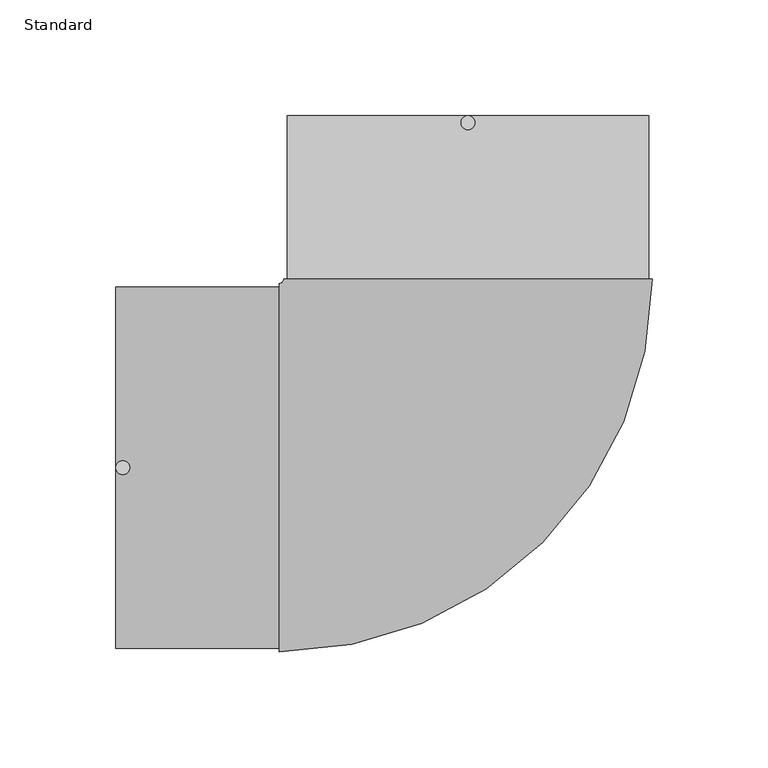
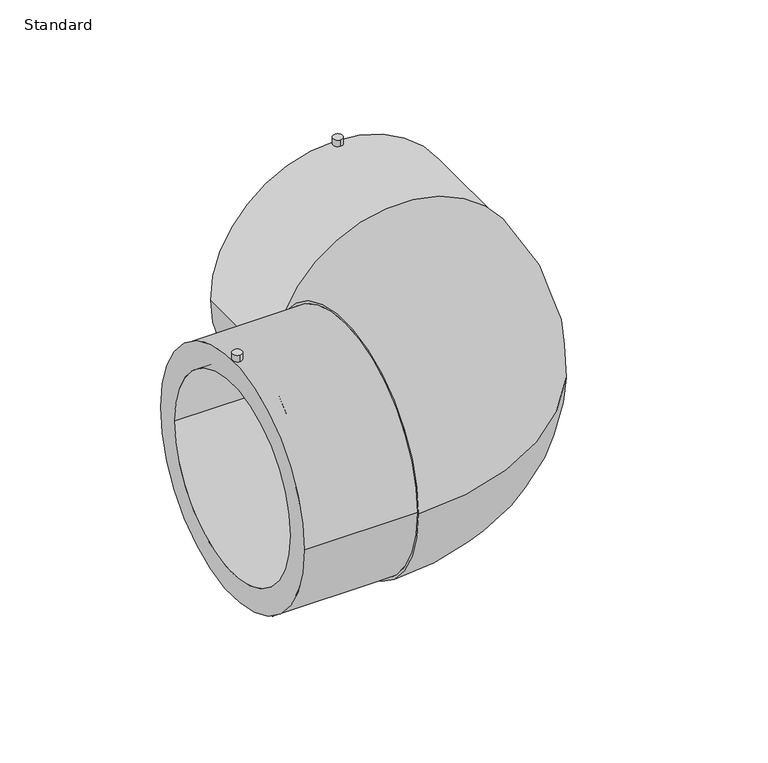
"""IFC4 building model written with IfcOpenShell, lengths in millimetres: pipe fitting geometry, EGB_VASEN_ PPR_Codo electrosoldable 90 WXRD200_Codo electrosoldable 45 WXRD220 : Standard."""

from ifc_helpers import new_model, si_unit, point, frame, frame_2d, origin, place, context, project, spatial, polyline, circle_curve, ellipse_curve, trimmed, segment, composite_curve, outline, extrude, source, transform, mapped, element, save
from ifc_brep_helpers import plane_surface, cylinder_surface, revolved_surface, advanced_brep


def standard_b9aabcd8(model_context):
    return source(origin(), model_context, "Body", "SolidModel", [
        advanced_brep(
        [(-152.0, -78.0, 0.0), (-152.0, 78.0, 0.0), (-152.0, -62.5, 0.0), (-152.0, 62.5, 0.0), (-81.5, -78.0, 0.0), (-81.5, 78.0, 0.0), (-81.5, -62.5, 0.0), (-81.5, 62.5, 0.0), (-81.5, -79.5, 0.0), (-81.5, 79.5, 0.0), (79.5, 81.5, 0.0), (-79.5, 81.5, 0.0), (78.0, 81.5, 0.0), (-78.0, 81.5, 0.0), (62.5, 81.5, 0.0), (-62.5, 81.5, 0.0), (78.0, 152.0, 0.0), (-78.0, 152.0, 0.0), (62.5, 152.0, 0.0), (-62.5, 152.0, 0.0)],
        [
            (0, 1, circle_curve(frame((-152.0, 0.0, 0.0), z_axis=(-1.0, 0.0, 0.0), x_axis=(0.0, 1.0, 0.0)), 78.0)),
            (1, 0, circle_curve(frame((-152.0, 0.0, 0.0), z_axis=(-1.0, 0.0, 0.0), x_axis=(0.0, 1.0, 0.0)), 78.0)),
            (2, 3, circle_curve(frame((-152.0, 0.0, 0.0), z_axis=(1.0, 0.0, 0.0), x_axis=(0.0, 1.0, 0.0)), 62.5)),
            (3, 2, circle_curve(frame((-152.0, 0.0, 0.0), z_axis=(1.0, 0.0, 0.0), x_axis=(0.0, 1.0, 0.0)), 62.5)),
            (0, 4),
            (4, 5, circle_curve(frame((-81.5, 0.0, 0.0), z_axis=(-1.0, 0.0, 0.0), x_axis=(0.0, 1.0, 0.0)), 78.0)),
            (5, 1),
            (5, 4, circle_curve(frame((-81.5, 0.0, 0.0), z_axis=(-1.0, 0.0, 0.0), x_axis=(0.0, 1.0, 0.0)), 78.0)),
            (2, 6),
            (6, 7, circle_curve(frame((-81.5, 0.0, 0.0), z_axis=(1.0, 0.0, 0.0), x_axis=(0.0, 1.0, 0.0)), 62.5)),
            (7, 3),
            (7, 6, circle_curve(frame((-81.5, 0.0, 0.0), z_axis=(1.0, 0.0, 0.0), x_axis=(0.0, 1.0, 0.0)), 62.5)),
            (8, 9, circle_curve(frame((-81.5, 0.0, 0.0), z_axis=(-1.0, 0.0, 0.0), x_axis=(0.0, 1.0, 0.0)), 79.5)),
            (9, 8, circle_curve(frame((-81.5, 0.0, 0.0), z_axis=(-1.0, 0.0, 0.0), x_axis=(0.0, 1.0, 0.0)), 79.5)),
            (10, 11, circle_curve(frame((0.0, 81.5, 0.0), z_axis=(0.0, 1.0, 0.0), x_axis=(-1.0, 0.0, 0.0)), 79.5)),
            (11, 10, circle_curve(frame((0.0, 81.5, 0.0), z_axis=(0.0, 1.0, 0.0), x_axis=(-1.0, 0.0, 0.0)), 79.5)),
            (12, 13, circle_curve(frame((0.0, 81.5, 0.0), z_axis=(0.0, -1.0, 0.0), x_axis=(-1.0, 0.0, 0.0)), 78.0)),
            (13, 12, circle_curve(frame((0.0, 81.5, 0.0), z_axis=(0.0, -1.0, 0.0), x_axis=(-1.0, 0.0, 0.0)), 78.0)),
            (14, 15, circle_curve(frame((0.0, 81.5, 0.0), z_axis=(0.0, 1.0, 0.0), x_axis=(-1.0, 0.0, 0.0)), 62.5)),
            (15, 14, circle_curve(frame((0.0, 81.5, 0.0), z_axis=(0.0, 1.0, 0.0), x_axis=(-1.0, 0.0, 0.0)), 62.5)),
            (8, 10, circle_curve(frame((-81.5, 81.5, 0.0), z_axis=(0.0, 0.0, 1.0), x_axis=(0.0, -1.0, 0.0)), 161.0)),
            (11, 9, circle_curve(frame((-81.5, 81.5, 0.0), z_axis=(0.0, 0.0, -1.0), x_axis=(0.0, -1.0, 0.0)), 2.0)),
            (16, 17, circle_curve(frame((0.0, 152.0, 0.0), z_axis=(0.0, 1.0, 0.0), x_axis=(-1.0, 0.0, 0.0)), 78.0)),
            (17, 16, circle_curve(frame((0.0, 152.0, 0.0), z_axis=(0.0, 1.0, 0.0), x_axis=(-1.0, 0.0, 0.0)), 78.0)),
            (18, 19, circle_curve(frame((0.0, 152.0, 0.0), z_axis=(0.0, -1.0, 0.0), x_axis=(-1.0, 0.0, 0.0)), 62.5)),
            (19, 18, circle_curve(frame((0.0, 152.0, 0.0), z_axis=(0.0, -1.0, 0.0), x_axis=(-1.0, 0.0, 0.0)), 62.5)),
            (17, 13),
            (12, 16),
            (19, 15),
            (14, 18),
        ],
        [
            plane_surface(frame((-152.0, 0.0, 0.0), z_axis=(-1.0, 0.0, 0.0), x_axis=(0.0, 0.0, 1.0))),
            cylinder_surface(frame((-152.0, 0.0, 0.0), z_axis=(-1.0, 0.0, 0.0), x_axis=(0.0, 1.0, 0.0)), 78.0),
            revolved_surface(polyline([(-81.5, 62.5, 0.0), (-152.0, 62.5, 0.0)]), (-152.0, 0.0, 0.0), (1.0, 0.0, 0.0)),
            plane_surface(frame((-81.5, 0.0, 0.0), z_axis=(-1.0, 0.0, 0.0), x_axis=(0.0, 0.0, 1.0))),
            plane_surface(frame((0.0, 81.5, 0.0), z_axis=(0.0, 1.0, 0.0), x_axis=(0.0, 0.0, 1.0))),
            revolved_surface(trimmed(ellipse_curve(frame((-81.5, 0.0, 0.0), z_axis=(-1.0, 0.0, 0.0), x_axis=(0.0, 1.0, 0.0)), 79.5, 79.5), [point((-81.5, -79.5, 0.0))], [point((-81.5, 79.5, 0.0))], True, "CARTESIAN"), (-81.5, 81.5, 0.0), (0.0, 0.0, 1.0)),
            revolved_surface(trimmed(ellipse_curve(frame((-81.5, 0.0, 0.0), z_axis=(-1.0, 0.0, 0.0), x_axis=(0.0, 1.0, 0.0)), 79.5, 79.5), [point((-81.5, 79.5, 0.0))], [point((-81.5, -79.5, 0.0))], True, "CARTESIAN"), (-81.5, 81.5, 0.0), (0.0, 0.0, 1.0)),
            plane_surface(frame((0.0, 152.0, 0.0), z_axis=(0.0, 1.0, 0.0), x_axis=(0.0, 0.0, 1.0))),
            cylinder_surface(frame((0.0, 81.5, 0.0), z_axis=(0.0, -1.0, 0.0), x_axis=(-1.0, 0.0, 0.0)), 78.0),
            revolved_surface(polyline([(-62.5, 152.0, 0.0), (-62.5, 81.5, 0.0)]), (0.0, 81.5, 0.0), (0.0, 1.0, 0.0)),
        ],
        [
            (0, [[1, 2], [3, 4]]),
            (1, [[-1, 5, 6, 7]]),
            (1, [[-2, -7, 8, -5]]),
            (2, [[-3, 9, 10, 11]]),
            (2, [[-4, -11, 12, -9]]),
            (3, [[-10, -12]]),
            (3, [[13, 14], [-6, -8]]),
            (4, [[15, 16], [17, 18]]),
            (4, [[19, 20]]),
            (5, [[-13, 21, -16, 22]]),
            (6, [[-14, -22, -15, -21]]),
            (7, [[23, 24], [25, 26]]),
            (8, [[-24, 27, -17, 28]]),
            (8, [[-23, -28, -18, -27]]),
            (9, [[-26, 29, -19, 30]]),
            (9, [[-25, -30, -20, -29]]),
        ],
    ),
        extrude(outline(composite_curve([segment(trimmed(circle_curve(frame_2d((0.0, 149.0)), 3.0), [point((0.0, 146.0))], [point((0.0, 152.0))], False, "CARTESIAN"), True, "CONTINUOUS"), segment(trimmed(circle_curve(frame_2d((0.0, 149.0)), 3.0), [point((0.0, 152.0))], [point((0.0, 146.0))], False, "CARTESIAN"), True, "CONTINUOUS")], self_intersect=False)), frame((0.0, 0.0, 63.5), z_axis=(0.0, 0.0, 1.0), x_axis=(1.0, 0.0, 0.0)), (0.0, 0.0, 1.0), 19.0),
        extrude(outline(composite_curve([segment(trimmed(circle_curve(frame_2d((-149.0, 0.0)), 3.0), [point((-149.0, -3.0))], [point((-149.0, 3.0))], False, "CARTESIAN"), True, "CONTINUOUS"), segment(trimmed(circle_curve(frame_2d((-149.0, 0.0)), 3.0), [point((-149.0, 3.0))], [point((-149.0, -3.0))], False, "CARTESIAN"), True, "CONTINUOUS")], self_intersect=False)), frame((0.0, 0.0, 63.5), z_axis=(0.0, 0.0, 1.0), x_axis=(1.0, 0.0, 0.0)), (0.0, 0.0, 1.0), 19.0),
    ])


if __name__ == "__main__":
    model = new_model("IFC4")
    model_context = context("Model", 3, world=origin())
    ifc_project = project(units=[si_unit("LENGTHUNIT", "METRE", prefix="MILLI")], contexts=[model_context])
    site = spatial("IfcSite", under=ifc_project)
    building = spatial("IfcBuilding", under=site)
    placement = place(None, origin())
    standard_shape = standard_b9aabcd8(model_context)
    element("IfcPipeFitting", 1, ObjectType="EGB_VASEN_ PPR_Codo electrosoldable 90 WXRD200_Codo electrosoldable 45 WXRD220 : Standard", at=placement, inside=building, context=model_context, shape_type="MappedRepresentation", body=[
        mapped(standard_shape, transform((0.0, 0.0, 0.0), x_axis=(1.0, 0.0, 0.0), y_axis=(0.0, 1.0, 0.0), z_axis=(0.0, 0.0, 1.0))),
    ])
    save(model, "model.ifc")
